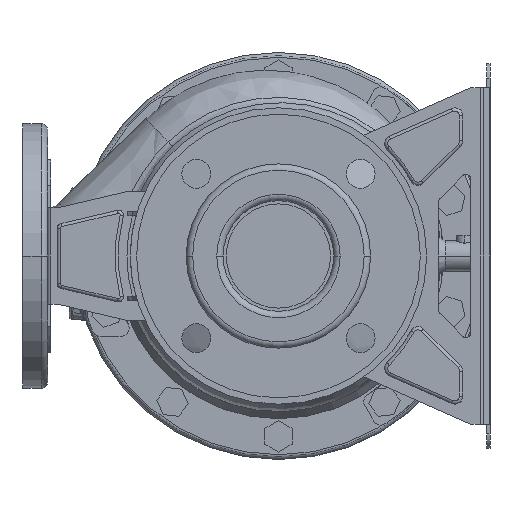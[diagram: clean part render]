
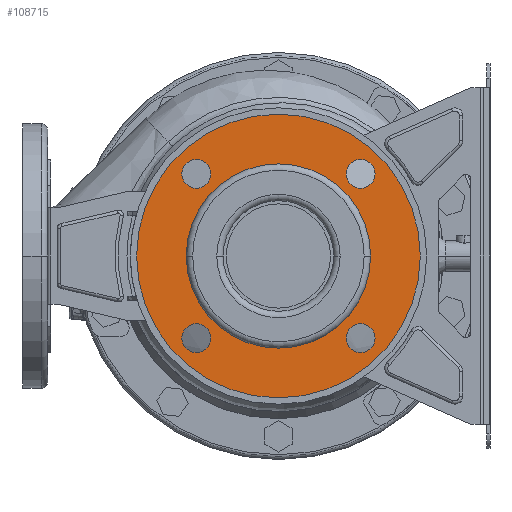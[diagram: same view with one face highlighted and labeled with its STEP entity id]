
A CAD part, front view. The second image highlights one B-rep face of the part: STEP entity #108715.
In plain terms, the highlighted planar face has unit normal (0, -1, 0).
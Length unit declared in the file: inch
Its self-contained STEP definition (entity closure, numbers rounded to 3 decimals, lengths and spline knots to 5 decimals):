
#89 = CARTESIAN_POINT ( 'NONE',  ( 2.01832, -8.11024, -2.37265 ) ) ;
#2337 = DIRECTION ( 'NONE',  ( -1., 0., 0. ) ) ;
#2623 = CIRCLE ( 'NONE', #9915, 3.48425 ) ;
#4177 = EDGE_CURVE ( 'NONE', #83283, #41992, #5475, .T. ) ;
#4382 = CARTESIAN_POINT ( 'NONE',  ( 0., -8.11024, 0. ) ) ;
#4781 = DIRECTION ( 'NONE',  ( 0., -1., 0. ) ) ;
#5475 = CIRCLE ( 'NONE', #79956, 0.35433 ) ;
#6192 = EDGE_LOOP ( 'NONE', ( #108019, #74568 ) ) ;
#7141 = CARTESIAN_POINT ( 'NONE',  ( -2.26378, -8.11024, 0. ) ) ;
#7294 = EDGE_LOOP ( 'NONE', ( #57606, #52239 ) ) ;
#9095 = VERTEX_POINT ( 'NONE', #56172 ) ;
#9347 = AXIS2_PLACEMENT_3D ( 'NONE', #42543, #17525, #60189 ) ;
#9592 = EDGE_LOOP ( 'NONE', ( #103802, #89969 ) ) ;
#9915 = AXIS2_PLACEMENT_3D ( 'NONE', #10254, #31089, #79643 ) ;
#10254 = CARTESIAN_POINT ( 'NONE',  ( 0., -8.11024, 0. ) ) ;
#11100 = CARTESIAN_POINT ( 'NONE',  ( 3.48425, -8.11024, 0. ) ) ;
#11125 = ORIENTED_EDGE ( 'NONE', *, *, #78516, .F. ) ;
#11597 = CARTESIAN_POINT ( 'NONE',  ( -1.66399, -8.11024, -2.01832 ) ) ;
#11976 = FACE_BOUND ( 'NONE', #9592, .T. ) ;
#12104 = EDGE_CURVE ( 'NONE', #94489, #87159, #112272, .T. ) ;
#13069 = AXIS2_PLACEMENT_3D ( 'NONE', #30139, #71144, #2337 ) ;
#13405 = ORIENTED_EDGE ( 'NONE', *, *, #41425, .T. ) ;
#13852 = ORIENTED_EDGE ( 'NONE', *, *, #84479, .T. ) ;
#14028 = DIRECTION ( 'NONE',  ( -1., 0., 0. ) ) ;
#14179 = CIRCLE ( 'NONE', #46821, 0.35433 ) ;
#15166 = EDGE_CURVE ( 'NONE', #72247, #9095, #27410, .T. ) ;
#17525 = DIRECTION ( 'NONE',  ( 0., 1., 0. ) ) ;
#18077 = DIRECTION ( 'NONE',  ( 0., 0., 1. ) ) ;
#19396 = FACE_BOUND ( 'NONE', #96741, .T. ) ;
#19841 = DIRECTION ( 'NONE',  ( 0., 1., 0. ) ) ;
#19947 = FACE_BOUND ( 'NONE', #6192, .T. ) ;
#20760 = DIRECTION ( 'NONE',  ( -1., 0., 0. ) ) ;
#21488 = CARTESIAN_POINT ( 'NONE',  ( -2.37265, -8.11024, -2.01832 ) ) ;
#23008 = CARTESIAN_POINT ( 'NONE',  ( 2.37265, -8.11024, 2.01832 ) ) ;
#23738 = CARTESIAN_POINT ( 'NONE',  ( 2.01832, -8.11024, 2.01832 ) ) ;
#23971 = EDGE_CURVE ( 'NONE', #42641, #42679, #2623, .T. ) ;
#27003 = ORIENTED_EDGE ( 'NONE', *, *, #4177, .T. ) ;
#27410 = CIRCLE ( 'NONE', #83709, 0.35433 ) ;
#30139 = CARTESIAN_POINT ( 'NONE',  ( 0., -8.11024, 0. ) ) ;
#31089 = DIRECTION ( 'NONE',  ( 0., -1., 0. ) ) ;
#31192 = CIRCLE ( 'NONE', #9347, 0.35433 ) ;
#32720 = CIRCLE ( 'NONE', #96340, 0.35433 ) ;
#34862 = DIRECTION ( 'NONE',  ( 0., 1., 0. ) ) ;
#36932 = CARTESIAN_POINT ( 'NONE',  ( 2.01832, -8.11024, -2.01832 ) ) ;
#39479 = CARTESIAN_POINT ( 'NONE',  ( -2.01832, -8.11024, 2.01832 ) ) ;
#40042 = DIRECTION ( 'NONE',  ( 0., 0., 1. ) ) ;
#40961 = CARTESIAN_POINT ( 'NONE',  ( -2.01832, -8.11024, -2.01832 ) ) ;
#41187 = AXIS2_PLACEMENT_3D ( 'NONE', #56554, #4781, #20760 ) ;
#41425 = EDGE_CURVE ( 'NONE', #84678, #101434, #83513, .T. ) ;
#41992 = VERTEX_POINT ( 'NONE', #23008 ) ;
#42543 = CARTESIAN_POINT ( 'NONE',  ( 2.01832, -8.11024, 2.01832 ) ) ;
#42641 = VERTEX_POINT ( 'NONE', #79348 ) ;
#42679 = VERTEX_POINT ( 'NONE', #11100 ) ;
#43247 = VERTEX_POINT ( 'NONE', #11597 ) ;
#46821 = AXIS2_PLACEMENT_3D ( 'NONE', #40961, #81970, #65989 ) ;
#47174 = EDGE_CURVE ( 'NONE', #43247, #69959, #14179, .T. ) ;
#48159 = DIRECTION ( 'NONE',  ( 0., 1., 0. ) ) ;
#49094 = EDGE_LOOP ( 'NONE', ( #11125, #91980 ) ) ;
#49440 = CIRCLE ( 'NONE', #85741, 0.35433 ) ;
#49709 = DIRECTION ( 'NONE',  ( 0., 1., 0. ) ) ;
#52217 = CARTESIAN_POINT ( 'NONE',  ( 2.01832, -8.11024, -2.01832 ) ) ;
#52239 = ORIENTED_EDGE ( 'NONE', *, *, #47174, .T. ) ;
#54663 = PLANE ( 'NONE',  #13069 ) ;
#55521 = EDGE_CURVE ( 'NONE', #87159, #94489, #32720, .T. ) ;
#55661 = DIRECTION ( 'NONE',  ( 0., 0., -1. ) ) ;
#55759 = FACE_OUTER_BOUND ( 'NONE', #49094, .T. ) ;
#56172 = CARTESIAN_POINT ( 'NONE',  ( -2.01832, -8.11024, 1.66399 ) ) ;
#56554 = CARTESIAN_POINT ( 'NONE',  ( 0., -8.11024, 0. ) ) ;
#57606 = ORIENTED_EDGE ( 'NONE', *, *, #110689, .T. ) ;
#58677 = CARTESIAN_POINT ( 'NONE',  ( -2.01832, -8.11024, -2.01832 ) ) ;
#60189 = DIRECTION ( 'NONE',  ( 1., 0., 0. ) ) ;
#61165 = CIRCLE ( 'NONE', #41187, 2.26378 ) ;
#63714 = ORIENTED_EDGE ( 'NONE', *, *, #94647, .F. ) ;
#65989 = DIRECTION ( 'NONE',  ( 1., 0., 0. ) ) ;
#66263 = AXIS2_PLACEMENT_3D ( 'NONE', #85016, #103205, #86147 ) ;
#69540 = DIRECTION ( 'NONE',  ( -1., 0., 0. ) ) ;
#69959 = VERTEX_POINT ( 'NONE', #21488 ) ;
#70574 = AXIS2_PLACEMENT_3D ( 'NONE', #77506, #34862, #69540 ) ;
#71144 = DIRECTION ( 'NONE',  ( 0., 1., 0. ) ) ;
#71531 = DIRECTION ( 'NONE',  ( 0., 1., 0. ) ) ;
#72247 = VERTEX_POINT ( 'NONE', #105348 ) ;
#74153 = CIRCLE ( 'NONE', #70574, 3.48425 ) ;
#74568 = ORIENTED_EDGE ( 'NONE', *, *, #92757, .T. ) ;
#74615 = DIRECTION ( 'NONE',  ( 0., 1., 0. ) ) ;
#77506 = CARTESIAN_POINT ( 'NONE',  ( 0., -8.11024, 0. ) ) ;
#78516 = EDGE_CURVE ( 'NONE', #42641, #42679, #74153, .T. ) ;
#79348 = CARTESIAN_POINT ( 'NONE',  ( -3.48425, -8.11024, 0. ) ) ;
#79643 = DIRECTION ( 'NONE',  ( -1., 0., 0. ) ) ;
#79956 = AXIS2_PLACEMENT_3D ( 'NONE', #23738, #110233, #108536 ) ;
#80851 = CIRCLE ( 'NONE', #66263, 0.35433 ) ;
#81970 = DIRECTION ( 'NONE',  ( 0., 1., 0. ) ) ;
#83283 = VERTEX_POINT ( 'NONE', #92624 ) ;
#83513 = CIRCLE ( 'NONE', #107175, 2.26378 ) ;
#83709 = AXIS2_PLACEMENT_3D ( 'NONE', #39479, #49709, #40042 ) ;
#84479 = EDGE_CURVE ( 'NONE', #41992, #83283, #31192, .T. ) ;
#84678 = VERTEX_POINT ( 'NONE', #7141 ) ;
#85016 = CARTESIAN_POINT ( 'NONE',  ( -2.01832, -8.11024, 2.01832 ) ) ;
#85741 = AXIS2_PLACEMENT_3D ( 'NONE', #58677, #74615, #92824 ) ;
#86147 = DIRECTION ( 'NONE',  ( 0., 0., -1. ) ) ;
#87159 = VERTEX_POINT ( 'NONE', #89 ) ;
#89969 = ORIENTED_EDGE ( 'NONE', *, *, #12104, .T. ) ;
#90461 = FACE_BOUND ( 'NONE', #107487, .T. ) ;
#91980 = ORIENTED_EDGE ( 'NONE', *, *, #23971, .T. ) ;
#92624 = CARTESIAN_POINT ( 'NONE',  ( 1.66399, -8.11024, 2.01832 ) ) ;
#92757 = EDGE_CURVE ( 'NONE', #9095, #72247, #80851, .T. ) ;
#92824 = DIRECTION ( 'NONE',  ( -1., 0., 0. ) ) ;
#94489 = VERTEX_POINT ( 'NONE', #102727 ) ;
#94647 = EDGE_CURVE ( 'NONE', #84678, #101434, #61165, .T. ) ;
#96340 = AXIS2_PLACEMENT_3D ( 'NONE', #36932, #19841, #55661 ) ;
#96741 = EDGE_LOOP ( 'NONE', ( #63714, #13405 ) ) ;
#97881 = FACE_BOUND ( 'NONE', #7294, .T. ) ;
#101434 = VERTEX_POINT ( 'NONE', #106728 ) ;
#102727 = CARTESIAN_POINT ( 'NONE',  ( 2.01832, -8.11024, -1.66399 ) ) ;
#103205 = DIRECTION ( 'NONE',  ( 0., 1., 0. ) ) ;
#103802 = ORIENTED_EDGE ( 'NONE', *, *, #55521, .T. ) ;
#105348 = CARTESIAN_POINT ( 'NONE',  ( -2.01832, -8.11024, 2.37265 ) ) ;
#106728 = CARTESIAN_POINT ( 'NONE',  ( 2.26378, -8.11024, 0. ) ) ;
#106745 = AXIS2_PLACEMENT_3D ( 'NONE', #52217, #71531, #18077 ) ;
#107175 = AXIS2_PLACEMENT_3D ( 'NONE', #4382, #48159, #14028 ) ;
#107487 = EDGE_LOOP ( 'NONE', ( #13852, #27003 ) ) ;
#108019 = ORIENTED_EDGE ( 'NONE', *, *, #15166, .T. ) ;
#108536 = DIRECTION ( 'NONE',  ( -1., 0., 0. ) ) ;
#108715 = ADVANCED_FACE ( 'NONE', ( #55759, #19396, #90461, #11976, #97881, #19947 ), #54663, .F. ) ;
#110233 = DIRECTION ( 'NONE',  ( 0., 1., 0. ) ) ;
#110689 = EDGE_CURVE ( 'NONE', #69959, #43247, #49440, .T. ) ;
#112272 = CIRCLE ( 'NONE', #106745, 0.35433 ) ;
